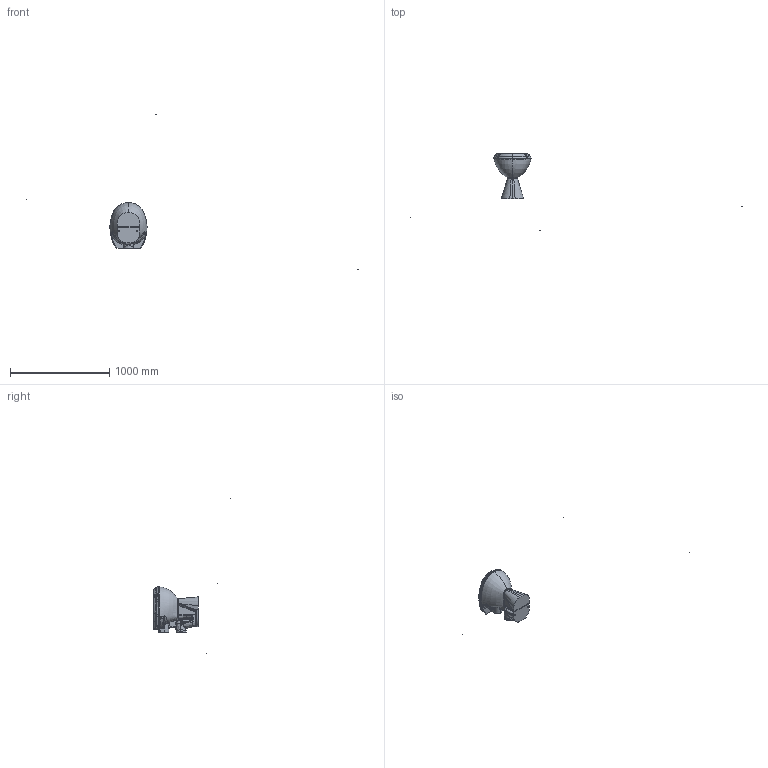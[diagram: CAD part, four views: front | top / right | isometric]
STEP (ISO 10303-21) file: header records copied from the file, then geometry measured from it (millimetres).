
FILE_DESCRIPTION (( 'STEP AP203' ), '1' );
FILE_NAME ('TP330.STEP', '2022-04-27T14:15:02', ( '' ), ( '' ), 'SwSTEP 2.0', 'SolidWorks 2021', '' );
FILE_SCHEMA (( 'CONFIG_CONTROL_DESIGN' ));
Products named in the file (1): TP330
Bounding box: 3342.89 x 774.98 x 1567.2 mm (x, y, z)
Volume: 24175509.5 mm3; surface area: 1201102.2 mm2
Topology: 31 solids, 31 shells, 784 faces, 1903 edges, 1156 vertices
Faces by surface type: bspline 489, cylinder 119, plane 105, torus 57, sphere 8, cone 6
Entity records: 219477 total; most frequent: CARTESIAN_POINT 205125, ORIENTED_EDGE 3744, EDGE_CURVE 1872, DIRECTION 1781, VERTEX_POINT 1156, B_SPLINE_CURVE_WITH_KNOTS 1070, EDGE_LOOP 796, ADVANCED_FACE 784
